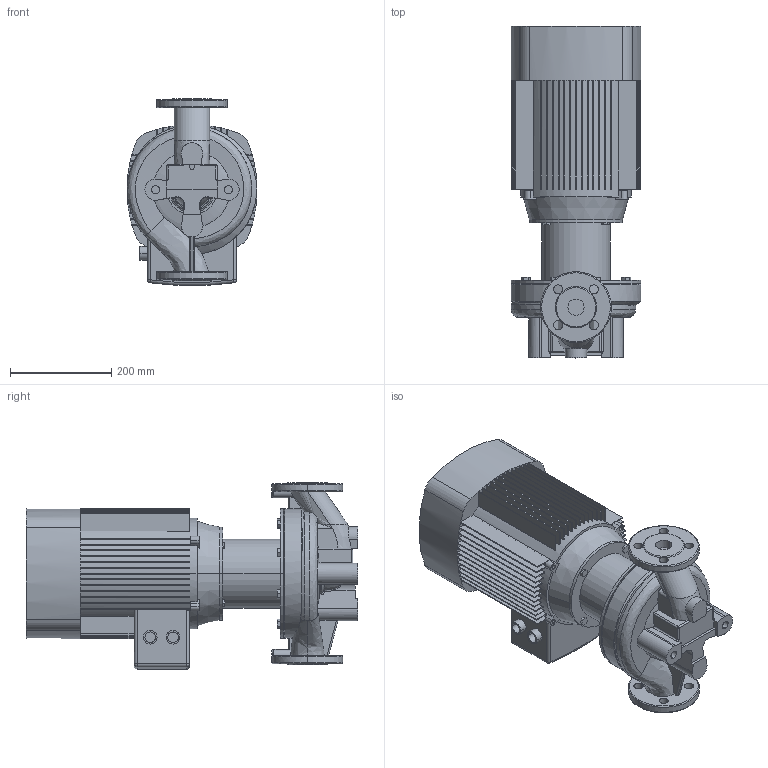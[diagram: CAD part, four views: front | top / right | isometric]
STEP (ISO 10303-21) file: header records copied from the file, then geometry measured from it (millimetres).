
FILE_DESCRIPTION (( 'STEP AP203' ), '1' );
FILE_NAME ('TD32-50G_2.STEP', '2022-05-02T13:26:12', ( '' ), ( '' ), 'SwSTEP 2.0', 'SolidWorks 2019', '' );
FILE_SCHEMA (( 'CONFIG_CONTROL_DESIGN' ));
Length unit declared in the file: millimetre
Products named in the file (4): TD32-50G_2; ED_B14_YE2-132S1-2 (5.5); Fon_32_TD32-50G_2; Pr_ch 32_TD32-50G_2
Assembly tree (3 placements, depth 2):
  TD32-50G_2
    Pr_ch 32_TD32-50G_2
    Fon_32_TD32-50G_2
    ED_B14_YE2-132S1-2 (5.5)
Bounding box: 257 x 656 x 369.37 mm (x, y, z)
Volume: 24306407.6 mm3; surface area: 1458888.8 mm2
Topology: 3 solids, 4 shells, 654 faces, 1770 edges, 1153 vertices
Faces by surface type: plane 396, cylinder 169, bspline 36, torus 30, sphere 12, cone 11
Entity records: 27039 total; most frequent: CARTESIAN_POINT 10147, ORIENTED_EDGE 3516, DIRECTION 3427, EDGE_CURVE 1758, AXIS2_PLACEMENT_3D 1234, VERTEX_POINT 1147, LINE 959, VECTOR 959
